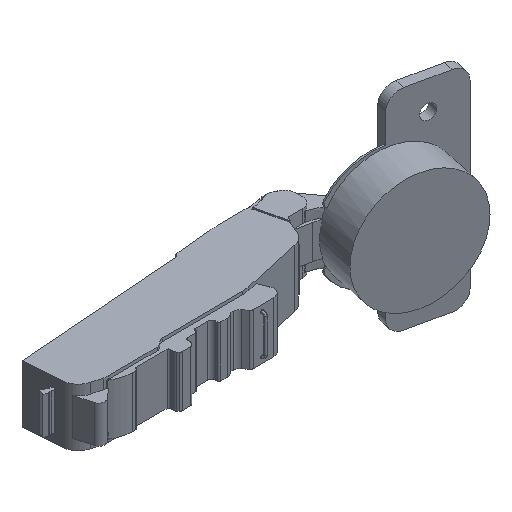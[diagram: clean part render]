
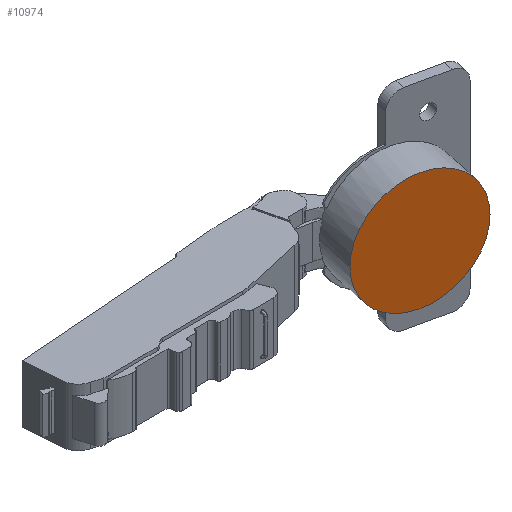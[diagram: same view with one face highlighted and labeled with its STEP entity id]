
A CAD part, isometric view. The second image highlights one B-rep face of the part: STEP entity #10974.
In plain terms, the highlighted planar face has unit normal (-0.21, -0.978, 0).
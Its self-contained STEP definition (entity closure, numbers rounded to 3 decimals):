
#11 = VERTEX_POINT ( 'NONE', #6767 ) ;
#488 = DIRECTION ( 'NONE',  ( -0.21, -0.978, 0. ) ) ;
#1578 = DIRECTION ( 'NONE',  ( -0.21, -0.978, 0. ) ) ;
#2242 = CARTESIAN_POINT ( 'NONE',  ( 1.68, 11.701, 0.967 ) ) ;
#2805 = DIRECTION ( 'NONE',  ( -0.21, -0.978, 0. ) ) ;
#2808 = VERTEX_POINT ( 'NONE', #2242 ) ;
#3023 = FACE_OUTER_BOUND ( 'NONE', #5549, .T. ) ;
#3283 = EDGE_CURVE ( 'NONE', #2808, #11, #9835, .T. ) ;
#3450 = ORIENTED_EDGE ( 'NONE', *, *, #3283, .T. ) ;
#4369 = EDGE_CURVE ( 'NONE', #11, #2808, #8031, .T. ) ;
#5549 = EDGE_LOOP ( 'NONE', ( #7028, #3450 ) ) ;
#6767 = CARTESIAN_POINT ( 'NONE',  ( 35.706, 4.404, 0.967 ) ) ;
#7028 = ORIENTED_EDGE ( 'NONE', *, *, #4369, .T. ) ;
#7551 = PLANE ( 'NONE',  #10175 ) ;
#7619 = CARTESIAN_POINT ( 'NONE',  ( 18.693, 8.052, 0.967 ) ) ;
#8031 = CIRCLE ( 'NONE', #9179, 17.4 ) ;
#8675 = CARTESIAN_POINT ( 'NONE',  ( 18.693, 8.052, 0.967 ) ) ;
#8794 = DIRECTION ( 'NONE',  ( 0.978, -0.21, 0. ) ) ;
#9179 = AXIS2_PLACEMENT_3D ( 'NONE', #7619, #488, #8794 ) ;
#9835 = CIRCLE ( 'NONE', #10006, 17.4 ) ;
#9851 = DIRECTION ( 'NONE',  ( 0.978, -0.21, 0. ) ) ;
#9879 = CARTESIAN_POINT ( 'NONE',  ( 18.693, 8.052, 0.967 ) ) ;
#10006 = AXIS2_PLACEMENT_3D ( 'NONE', #8675, #1578, #9851 ) ;
#10175 = AXIS2_PLACEMENT_3D ( 'NONE', #9879, #2805, #11094 ) ;
#10974 = ADVANCED_FACE ( 'NONE', ( #3023 ), #7551, .T. ) ;
#11094 = DIRECTION ( 'NONE',  ( 0.978, -0.21, 0. ) ) ;
